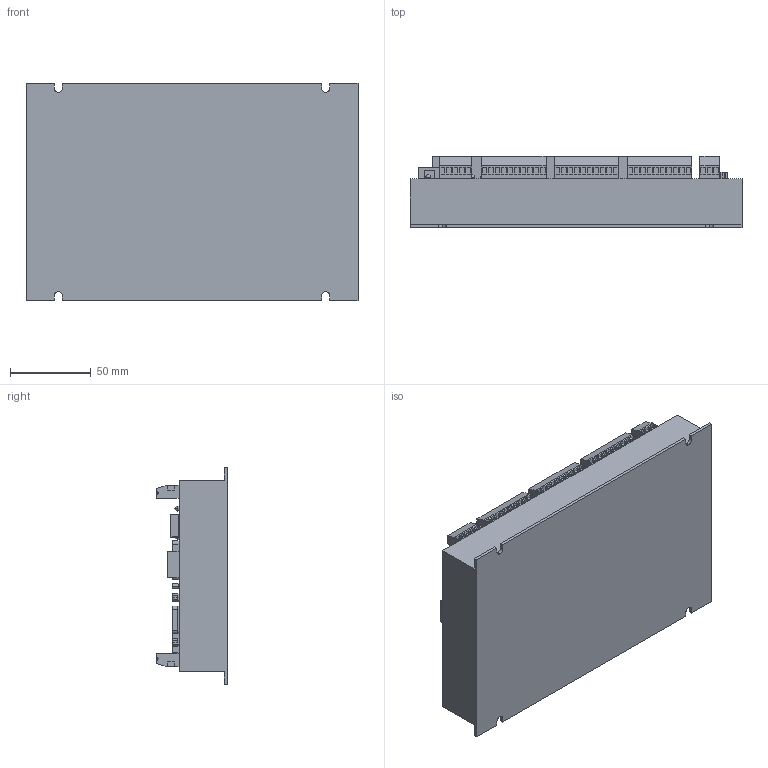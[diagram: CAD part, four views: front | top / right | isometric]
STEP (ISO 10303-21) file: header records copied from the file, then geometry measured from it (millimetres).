
FILE_DESCRIPTION (( 'STEP AP214' ), '1' );
FILE_NAME ('ZMC306X.STEP', '2018-08-24T09:38:06', ( 'Microsoft' ), ( ' ' ), 'SwSTEP 2.0', 'SolidWorks 2014', '' );
FILE_SCHEMA (( 'AUTOMOTIVE_DESIGN' ));
Length unit declared in the file: millimetre
Products named in the file (11): 三连灯; 傷赽-苤-3; 傷赽-苤-10; 腑; U攫; 9渀-2齬-鼠芛; ZMC303-304-304X-306X-俋褲; ZMC306X; 傷赽-苤-5; 26渀-3齬-譫芛; 厙諳-傻
Assembly tree (23 placements, depth 3):
  ZMC306X
    ZMC303-304-304X-306X-俋褲
    9渀-2齬-鼠芛
    U攫
    腑
    傷赽-苤-10  x5
    傷赽-苤-3
    三连灯
      腑  x3
    厙諳-傻
    26渀-3齬-譫芛  x6
    傷赽-苤-5  x2
Bounding box: 205 x 44 x 134 mm (x, y, z)
Volume: 761227.7 mm3; surface area: 99358.8 mm2
Topology: 85 solids, 85 shells, 2991 faces, 7548 edges, 5028 vertices
Faces by surface type: plane 2057, cylinder 538, bspline 388, sphere 8
Entity records: 73955 total; most frequent: CARTESIAN_POINT 27946, ORIENTED_EDGE 9856, DIRECTION 7470, EDGE_CURVE 4928, LINE 3804, VECTOR 3804, VERTEX_POINT 3285, EDGE_LOOP 1939
